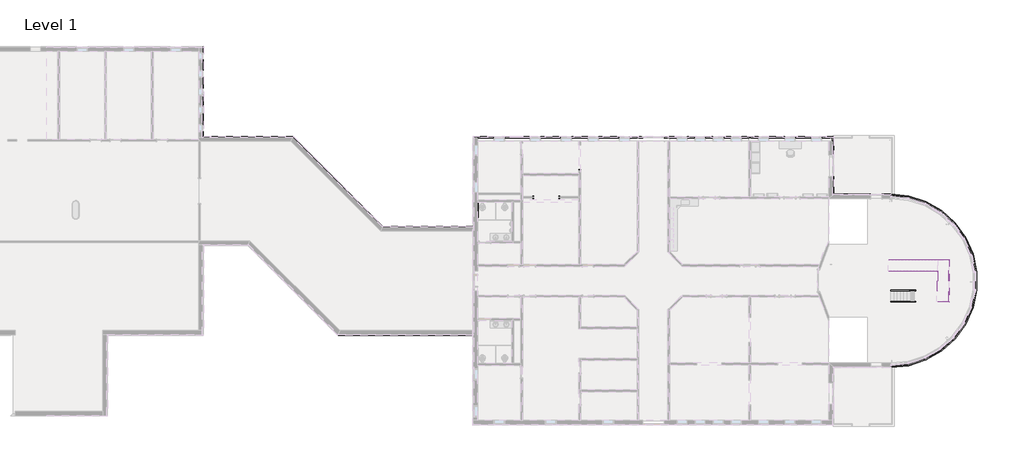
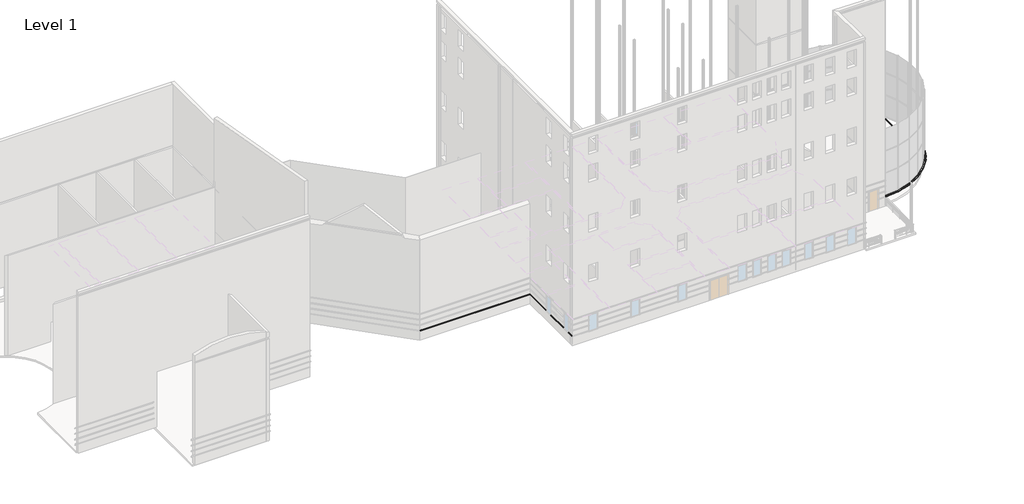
# One storey, part 16 of 16: 14 proxies, 8 members.
"""IFC4 building model written with IfcOpenShell, lengths in millimetres."""

from ifc_helpers import new_model, si_unit, frame, origin, place, context, project, spatial, polyline, circle_curve, outline, extrude, faceted_brep, transform, mapped, element, save
from ifc_brep_helpers import plane_surface, cylinder_surface, revolved_surface, advanced_brep
from components import proxy_cdde062f, proxy_226d7026

model = new_model("IFC4")

# Units and contexts
model_context = context("Model", 3, world=origin())
ifc_project = project(units=[si_unit("LENGTHUNIT", "METRE", prefix="MILLI")], contexts=[model_context])

# Site, building, storey
site = spatial("IfcSite", under=ifc_project)
building = spatial("IfcBuilding", under=site)
storey = spatial("IfcBuildingStorey", under=building, Name="Level 1", Elevation=0.0)

# Proxies
placement = place(None, origin())
element("IfcBuildingElementProxy", 1, Name="Wall Sweeps", at=placement, inside=storey, context=model_context, shape_type="Brep", body=[
    faceted_brep([(-20165.462755, 16963.8737109, 1085.85), (-20257.537755, 16963.8737109, 1085.85), (-20292.462755, 16963.8737109, 1041.4), (-20292.462755, 16963.8737109, 1016.0), (-20257.537755, 16963.8737109, 1016.0), (-20165.462755, 16963.8737109, 1016.0), (-20165.462755, 17529.0237109, 1085.85), (-20165.462755, 17529.0237109, 1016.0), (-20292.462755, 17656.0237109, 1016.0), (-20292.462755, 17656.0237109, 1041.4), (-20257.537755, 17621.0987109, 1085.85)], [[[0, 1, 2, 3, 4, 5]], [[6, 7, 8, 9, 10]], [[1, 0, 6, 10]], [[2, 1, 10, 9]], [[3, 2, 9, 8]], [[5, 4, 3, 8, 7]], [[0, 5, 7, 6]]]),
    faceted_brep([(-20165.462755, 13820.6237109, 1085.85), (-20257.537755, 13820.6237109, 1085.85), (-20292.462755, 13820.6237109, 1041.4), (-20292.462755, 13820.6237109, 1016.0), (-20257.537755, 13820.6237109, 1016.0), (-20165.462755, 13820.6237109, 1016.0), (-20165.462755, 16049.4737109, 1085.85), (-20165.462755, 16049.4737109, 1016.0), (-20257.537755, 16049.4737109, 1016.0), (-20292.462755, 16049.4737109, 1016.0), (-20292.462755, 16049.4737109, 1041.4), (-20257.537755, 16049.4737109, 1085.85)], [[[0, 1, 2, 3, 4, 5]], [[6, 7, 8, 9, 10, 11]], [[1, 0, 6, 11]], [[2, 1, 11, 10]], [[3, 2, 10, 9]], [[5, 4, 3, 9, 8, 7]], [[0, 5, 7, 6]]]),
    faceted_brep([(-20165.462755, 6267.2987109, 1085.85), (-20257.537755, 6267.2987109, 1085.85), (-20292.462755, 6267.2987109, 1041.4), (-20292.462755, 6267.2987109, 1016.0), (-20257.537755, 6267.2987109, 1016.0), (-20165.462755, 6267.2987109, 1016.0), (-20165.462755, 12906.2237109, 1085.85), (-20165.462755, 12906.2237109, 1016.0), (-20257.537755, 12906.2237109, 1016.0), (-20292.462755, 12906.2237109, 1016.0), (-20292.462755, 12906.2237109, 1041.4), (-20257.537755, 12906.2237109, 1085.85)], [[[0, 1, 2, 3, 4, 5]], [[6, 7, 8, 9, 10, 11]], [[1, 0, 6, 11]], [[2, 1, 11, 10]], [[3, 2, 10, 9]], [[5, 4, 3, 9, 8, 7]], [[0, 5, 7, 6]]]),
    faceted_brep([(-20165.462755, -2048.0262891, 1085.85), (-20257.537755, -2048.0262891, 1085.85), (-20292.462755, -2048.0262891, 1041.4), (-20292.462755, -2048.0262891, 1016.0), (-20257.537755, -2048.0262891, 1016.0), (-20165.462755, -2048.0262891, 1016.0), (-20165.462755, 4590.8987109, 1085.85), (-20165.462755, 4590.8987109, 1016.0), (-20257.537755, 4590.8987109, 1016.0), (-20292.462755, 4590.8987109, 1016.0), (-20292.462755, 4590.8987109, 1041.4), (-20257.537755, 4590.8987109, 1085.85)], [[[0, 1, 2, 3, 4, 5]], [[6, 7, 8, 9, 10, 11]], [[1, 0, 6, 11]], [[2, 1, 11, 10]], [[3, 2, 10, 9]], [[5, 4, 3, 9, 8, 7]], [[0, 5, 7, 6]]]),
    faceted_brep([(-20165.462755, -6670.8262891, 1085.85), (-20257.537755, -6762.9012891, 1085.85), (-20292.462755, -6797.8262891, 1041.4), (-20292.462755, -6797.8262891, 1016.0), (-20165.462755, -6670.8262891, 1016.0), (-20165.462755, -6105.6762891, 1085.85), (-20165.462755, -6105.6762891, 1016.0), (-20257.537755, -6105.6762891, 1016.0), (-20292.462755, -6105.6762891, 1016.0), (-20292.462755, -6105.6762891, 1041.4), (-20257.537755, -6105.6762891, 1085.85), (-20165.462755, -6410.4762891, 1085.85), (-20165.462755, -6410.4762891, 1016.0)], [[[0, 1, 2, 3, 4]], [[5, 6, 7, 8, 9, 10]], [[1, 0, 11, 5, 10]], [[2, 1, 10, 9]], [[3, 2, 9, 8]], [[4, 3, 8, 7, 6, 12]], [[0, 4, 12, 6, 5, 11]]]),
    faceted_brep([(-20165.462755, -5191.2762891, 1085.85), (-20257.537755, -5191.2762891, 1085.85), (-20292.462755, -5191.2762891, 1041.4), (-20292.462755, -5191.2762891, 1016.0), (-20257.537755, -5191.2762891, 1016.0), (-20165.462755, -5191.2762891, 1016.0), (-20165.462755, -2962.4262891, 1085.85), (-20165.462755, -2962.4262891, 1016.0), (-20257.537755, -2962.4262891, 1016.0), (-20292.462755, -2962.4262891, 1016.0), (-20292.462755, -2962.4262891, 1041.4), (-20257.537755, -2962.4262891, 1085.85)], [[[0, 1, 2, 3, 4, 5]], [[6, 7, 8, 9, 10, 11]], [[1, 0, 6, 11]], [[2, 1, 11, 10]], [[3, 2, 10, 9]], [[5, 4, 3, 9, 8, 7]], [[0, 5, 7, 6]]]),
])
element("IfcBuildingElementProxy", 2, Name="Wall Sweeps", at=placement, inside=storey, context=model_context, shape_type="Brep", body=[
    faceted_brep([(9260.437245, 17529.0237109, 1085.85), (9260.437245, 17621.0987109, 1085.85), (9260.437245, 17656.0237109, 1041.4), (9260.437245, 17656.0237109, 1016.0), (9260.437245, 17621.0987109, 1016.0), (9260.437245, 17529.0237109, 1016.0), (10130.387245, 17529.0237109, 1085.85), (10130.387245, 17529.0237109, 1016.0), (10257.387245, 17656.0237109, 1016.0), (10257.387245, 17656.0237109, 1041.4), (10222.462245, 17621.0987109, 1085.85)], [[[0, 1, 2, 3, 4, 5]], [[6, 7, 8, 9, 10]], [[1, 0, 6, 10]], [[2, 1, 10, 9]], [[3, 2, 9, 8]], [[5, 4, 3, 8, 7]], [[0, 5, 7, 6]]]),
    faceted_brep([(7019.680995, 17529.0237109, 1085.85), (7019.680995, 17621.0987109, 1085.85), (7019.680995, 17656.0237109, 1041.4), (7019.680995, 17656.0237109, 1016.0), (7019.680995, 17621.0987109, 1016.0), (7019.680995, 17529.0237109, 1016.0), (8346.037245, 17529.0237109, 1085.85), (8346.037245, 17529.0237109, 1016.0), (8346.037245, 17621.0987109, 1016.0), (8346.037245, 17656.0237109, 1016.0), (8346.037245, 17656.0237109, 1041.4), (8346.037245, 17621.0987109, 1085.85)], [[[0, 1, 2, 3, 4, 5]], [[6, 7, 8, 9, 10, 11]], [[1, 0, 6, 11]], [[2, 1, 11, 10]], [[3, 2, 10, 9]], [[5, 4, 3, 9, 8, 7]], [[0, 5, 7, 6]]]),
    faceted_brep([(4778.924745, 17529.0237109, 1085.85), (4778.924745, 17621.0987109, 1085.85), (4778.924745, 17656.0237109, 1041.4), (4778.924745, 17656.0237109, 1016.0), (4778.924745, 17621.0987109, 1016.0), (4778.924745, 17529.0237109, 1016.0), (6105.280995, 17529.0237109, 1085.85), (6105.280995, 17529.0237109, 1016.0), (6105.280995, 17621.0987109, 1016.0), (6105.280995, 17656.0237109, 1016.0), (6105.280995, 17656.0237109, 1041.4), (6105.280995, 17621.0987109, 1085.85)], [[[0, 1, 2, 3, 4, 5]], [[6, 7, 8, 9, 10, 11]], [[1, 0, 6, 11]], [[2, 1, 11, 10]], [[3, 2, 10, 9]], [[5, 4, 3, 9, 8, 7]], [[0, 5, 7, 6]]]),
    faceted_brep([(2462.762245, 17529.0237109, 1085.85), (2462.762245, 17621.0987109, 1085.85), (2462.762245, 17656.0237109, 1041.4), (2462.762245, 17656.0237109, 1016.0), (2462.762245, 17621.0987109, 1016.0), (2462.762245, 17529.0237109, 1016.0), (3864.524745, 17529.0237109, 1085.85), (3864.524745, 17529.0237109, 1016.0), (3864.524745, 17621.0987109, 1016.0), (3864.524745, 17656.0237109, 1016.0), (3864.524745, 17656.0237109, 1041.4), (3864.524745, 17621.0987109, 1085.85)], [[[0, 1, 2, 3, 4, 5]], [[6, 7, 8, 9, 10, 11]], [[1, 0, 6, 11]], [[2, 1, 11, 10]], [[3, 2, 10, 9]], [[5, 4, 3, 9, 8, 7]], [[0, 5, 7, 6]]]),
    faceted_brep([(933.999745, 17529.0237109, 1085.85), (933.999745, 17621.0987109, 1085.85), (933.999745, 17656.0237109, 1041.4), (933.999745, 17656.0237109, 1016.0), (933.999745, 17621.0987109, 1016.0), (933.999745, 17529.0237109, 1016.0), (1548.362245, 17529.0237109, 1085.85), (1548.362245, 17529.0237109, 1016.0), (1548.362245, 17621.0987109, 1016.0), (1548.362245, 17656.0237109, 1016.0), (1548.362245, 17656.0237109, 1041.4), (1548.362245, 17621.0987109, 1085.85)], [[[0, 1, 2, 3, 4, 5]], [[6, 7, 8, 9, 10, 11]], [[1, 0, 6, 11]], [[2, 1, 11, 10]], [[3, 2, 10, 9]], [[5, 4, 3, 9, 8, 7]], [[0, 5, 7, 6]]]),
    faceted_brep([(-2123.525255, 17529.0237109, 1085.85), (-2123.525255, 17621.0987109, 1085.85), (-2123.525255, 17656.0237109, 1041.4), (-2123.525255, 17656.0237109, 1016.0), (-2123.525255, 17621.0987109, 1016.0), (-2123.525255, 17529.0237109, 1016.0), (-1509.162755, 17529.0237109, 1085.85), (-1509.162755, 17529.0237109, 1016.0), (-1509.162755, 17621.0987109, 1016.0), (-1509.162755, 17656.0237109, 1016.0), (-1509.162755, 17656.0237109, 1041.4), (-1509.162755, 17621.0987109, 1085.85)], [[[0, 1, 2, 3, 4, 5]], [[6, 7, 8, 9, 10, 11]], [[1, 0, 6, 11]], [[2, 1, 11, 10]], [[3, 2, 10, 9]], [[5, 4, 3, 9, 8, 7]], [[0, 5, 7, 6]]]),
    faceted_brep([(-594.762755, 17529.0237109, 1085.85), (-594.762755, 17621.0987109, 1085.85), (-594.762755, 17656.0237109, 1041.4), (-594.762755, 17656.0237109, 1016.0), (-594.762755, 17621.0987109, 1016.0), (-594.762755, 17529.0237109, 1016.0), (19.599745, 17529.0237109, 1085.85), (19.599745, 17529.0237109, 1016.0), (19.599745, 17621.0987109, 1016.0), (19.599745, 17656.0237109, 1016.0), (19.599745, 17656.0237109, 1041.4), (19.599745, 17621.0987109, 1085.85)], [[[0, 1, 2, 3, 4, 5]], [[6, 7, 8, 9, 10, 11]], [[1, 0, 6, 11]], [[2, 1, 11, 10]], [[3, 2, 10, 9]], [[5, 4, 3, 9, 8, 7]], [[0, 5, 7, 6]]]),
    faceted_brep([(-20165.462755, 17529.0237109, 1085.85), (-20257.537755, 17621.0987109, 1085.85), (-20292.462755, 17656.0237109, 1041.4), (-20292.462755, 17656.0237109, 1016.0), (-20165.462755, 17529.0237109, 1016.0), (-18533.512755, 17529.0237109, 1085.85), (-18533.512755, 17529.0237109, 1016.0), (-18533.512755, 17621.0987109, 1016.0), (-18533.512755, 17656.0237109, 1016.0), (-18533.512755, 17656.0237109, 1041.4), (-18533.512755, 17621.0987109, 1085.85), (-19905.112755, 17529.0237109, 1085.85), (-19905.112755, 17529.0237109, 1016.0)], [[[0, 1, 2, 3, 4]], [[5, 6, 7, 8, 9, 10]], [[1, 0, 11, 5, 10]], [[2, 1, 10, 9]], [[3, 2, 9, 8]], [[4, 3, 8, 7, 6, 12]], [[0, 4, 12, 6, 5, 11]]]),
    faceted_brep([(-17619.112755, 17529.0237109, 1085.85), (-17619.112755, 17621.0987109, 1085.85), (-17619.112755, 17656.0237109, 1041.4), (-17619.112755, 17656.0237109, 1016.0), (-17619.112755, 17621.0987109, 1016.0), (-17619.112755, 17529.0237109, 1016.0), (-15482.337755, 17529.0237109, 1085.85), (-15482.337755, 17529.0237109, 1016.0), (-15482.337755, 17621.0987109, 1016.0), (-15482.337755, 17656.0237109, 1016.0), (-15482.337755, 17656.0237109, 1041.4), (-15482.337755, 17621.0987109, 1085.85)], [[[0, 1, 2, 3, 4, 5]], [[6, 7, 8, 9, 10, 11]], [[1, 0, 6, 11]], [[2, 1, 11, 10]], [[3, 2, 10, 9]], [[5, 4, 3, 9, 8, 7]], [[0, 5, 7, 6]]]),
    faceted_brep([(-14567.937755, 17529.0237109, 1085.85), (-14567.937755, 17621.0987109, 1085.85), (-14567.937755, 17656.0237109, 1041.4), (-14567.937755, 17656.0237109, 1016.0), (-14567.937755, 17621.0987109, 1016.0), (-14567.937755, 17529.0237109, 1016.0), (-12843.912755, 17529.0237109, 1085.85), (-12843.912755, 17529.0237109, 1016.0), (-12843.912755, 17621.0987109, 1016.0), (-12843.912755, 17656.0237109, 1016.0), (-12843.912755, 17656.0237109, 1041.4), (-12843.912755, 17621.0987109, 1085.85)], [[[0, 1, 2, 3, 4, 5]], [[6, 7, 8, 9, 10, 11]], [[1, 0, 6, 11]], [[2, 1, 11, 10]], [[3, 2, 10, 9]], [[5, 4, 3, 9, 8, 7]], [[0, 5, 7, 6]]]),
    faceted_brep([(-11929.512755, 17529.0237109, 1085.85), (-11929.512755, 17621.0987109, 1085.85), (-11929.512755, 17656.0237109, 1041.4), (-11929.512755, 17656.0237109, 1016.0), (-11929.512755, 17621.0987109, 1016.0), (-11929.512755, 17529.0237109, 1016.0), (-10554.737755, 17529.0237109, 1085.85), (-10554.737755, 17529.0237109, 1016.0), (-10554.737755, 17621.0987109, 1016.0), (-10554.737755, 17656.0237109, 1016.0), (-10554.737755, 17656.0237109, 1041.4), (-10554.737755, 17621.0987109, 1085.85)], [[[0, 1, 2, 3, 4, 5]], [[6, 7, 8, 9, 10, 11]], [[1, 0, 6, 11]], [[2, 1, 11, 10]], [[3, 2, 10, 9]], [[5, 4, 3, 9, 8, 7]], [[0, 5, 7, 6]]]),
    faceted_brep([(-9640.337755, 17529.0237109, 1085.85), (-9640.337755, 17621.0987109, 1085.85), (-9640.337755, 17656.0237109, 1041.4), (-9640.337755, 17656.0237109, 1016.0), (-9640.337755, 17621.0987109, 1016.0), (-9640.337755, 17529.0237109, 1016.0), (-7916.312755, 17529.0237109, 1085.85), (-7916.312755, 17529.0237109, 1016.0), (-7916.312755, 17621.0987109, 1016.0), (-7916.312755, 17656.0237109, 1016.0), (-7916.312755, 17656.0237109, 1041.4), (-7916.312755, 17621.0987109, 1085.85)], [[[0, 1, 2, 3, 4, 5]], [[6, 7, 8, 9, 10, 11]], [[1, 0, 6, 11]], [[2, 1, 11, 10]], [[3, 2, 10, 9]], [[5, 4, 3, 9, 8, 7]], [[0, 5, 7, 6]]]),
    faceted_brep([(-7001.912755, 17529.0237109, 1085.85), (-7001.912755, 17621.0987109, 1085.85), (-7001.912755, 17656.0237109, 1041.4), (-7001.912755, 17656.0237109, 1016.0), (-7001.912755, 17621.0987109, 1016.0), (-7001.912755, 17529.0237109, 1016.0), (-5931.937755, 17529.0237109, 1085.85), (-5931.937755, 17529.0237109, 1016.0), (-5931.937755, 17621.0987109, 1016.0), (-5931.937755, 17656.0237109, 1016.0), (-5931.937755, 17656.0237109, 1041.4), (-5931.937755, 17621.0987109, 1085.85)], [[[0, 1, 2, 3, 4, 5]], [[6, 7, 8, 9, 10, 11]], [[1, 0, 6, 11]], [[2, 1, 11, 10]], [[3, 2, 10, 9]], [[5, 4, 3, 9, 8, 7]], [[0, 5, 7, 6]]]),
    faceted_brep([(-4103.137755, 17529.0237109, 1085.85), (-4103.137755, 17621.0987109, 1085.85), (-4103.137755, 17656.0237109, 1041.4), (-4103.137755, 17656.0237109, 1016.0), (-4103.137755, 17621.0987109, 1016.0), (-4103.137755, 17529.0237109, 1016.0), (-3037.925255, 17529.0237109, 1085.85), (-3037.925255, 17529.0237109, 1016.0), (-3037.925255, 17621.0987109, 1016.0), (-3037.925255, 17656.0237109, 1016.0), (-3037.925255, 17656.0237109, 1041.4), (-3037.925255, 17621.0987109, 1085.85)], [[[0, 1, 2, 3, 4, 5]], [[6, 7, 8, 9, 10, 11]], [[1, 0, 6, 11]], [[2, 1, 11, 10]], [[3, 2, 10, 9]], [[5, 4, 3, 9, 8, 7]], [[0, 5, 7, 6]]]),
])
element("IfcBuildingElementProxy", 3, Name="Wall Sweeps", at=placement, inside=storey, context=model_context, shape_type="Brep", body=[
    faceted_brep([(10130.387245, 14268.2987109, 1085.85), (10222.462245, 14268.2987109, 1085.85), (10257.387245, 14268.2987109, 1041.4), (10257.387245, 14268.2987109, 1016.0), (10222.462245, 14268.2987109, 1016.0), (10130.387245, 14268.2987109, 1016.0), (10130.387245, 12652.2237109, 1085.85), (10130.387245, 12652.2237109, 1016.0), (10222.462245, 12744.2987109, 1016.0), (10257.387245, 12779.2237109, 1016.0), (10257.387245, 12779.2237109, 1041.4), (10222.462245, 12744.2987109, 1085.85)], [[[0, 1, 2, 3, 4, 5]], [[6, 7, 8, 9, 10, 11]], [[1, 0, 6, 11]], [[2, 1, 11, 10]], [[3, 2, 10, 9]], [[5, 4, 3, 9, 8, 7]], [[0, 5, 7, 6]]]),
    faceted_brep([(10130.387245, 17529.0237109, 1085.85), (10222.462245, 17621.0987109, 1085.85), (10257.387245, 17656.0237109, 1041.4), (10257.387245, 17656.0237109, 1016.0), (10130.387245, 17529.0237109, 1016.0), (10130.387245, 16097.0987109, 1085.85), (10130.387245, 16097.0987109, 1016.0), (10222.462245, 16097.0987109, 1016.0), (10257.387245, 16097.0987109, 1016.0), (10257.387245, 16097.0987109, 1041.4), (10222.462245, 16097.0987109, 1085.85), (10130.387245, 17268.6737109, 1085.85), (10130.387245, 17268.6737109, 1016.0)], [[[0, 1, 2, 3, 4]], [[5, 6, 7, 8, 9, 10]], [[1, 0, 11, 5, 10]], [[2, 1, 10, 9]], [[3, 2, 9, 8]], [[4, 3, 8, 7, 6, 12]], [[0, 4, 12, 6, 5, 11]]]),
])
element("IfcBuildingElementProxy", 4, Name="Wall Sweeps", at=placement, inside=storey, context=model_context, shape_type="Brep", body=[
    faceted_brep([(14330.912245, 12652.2237109, 1085.85), (14330.912245, 12744.2987109, 1085.85), (14330.912245, 12779.2237109, 1041.4), (14330.912245, 12779.2237109, 1016.0), (14330.912245, 12744.2987109, 1016.0), (14330.912245, 12652.2237109, 1016.0), (15099.262245, 12652.2237109, 1085.85), (15099.262245, 12652.2237109, 1016.0), (15099.262245, 12744.2987109, 1016.0), (15099.262245, 12779.2237109, 1016.0), (15099.262245, 12779.2237109, 1041.4), (15099.262245, 12744.2987109, 1085.85)], [[[0, 1, 2, 3, 4, 5]], [[6, 7, 8, 9, 10, 11]], [[1, 0, 6, 11]], [[2, 1, 11, 10]], [[3, 2, 10, 9]], [[5, 4, 3, 9, 8, 7]], [[0, 5, 7, 6]]]),
    faceted_brep([(10130.387245, 12652.2237109, 1085.85), (10222.462245, 12744.2987109, 1085.85), (10257.387245, 12779.2237109, 1041.4), (10257.387245, 12779.2237109, 1016.0), (10222.462245, 12744.2987109, 1016.0), (10130.387245, 12652.2237109, 1016.0), (13416.512245, 12652.2237109, 1085.85), (13416.512245, 12652.2237109, 1016.0), (13416.512245, 12744.2987109, 1016.0), (13416.512245, 12779.2237109, 1016.0), (13416.512245, 12779.2237109, 1041.4), (13416.512245, 12744.2987109, 1085.85)], [[[0, 1, 2, 3, 4, 5]], [[6, 7, 8, 9, 10, 11]], [[1, 0, 6, 11]], [[2, 1, 11, 10]], [[3, 2, 10, 9]], [[5, 4, 3, 9, 8, 7]], [[0, 5, 7, 6]]]),
])
element("IfcBuildingElementProxy", 5, Name="Wall Sweeps", at=placement, inside=storey, context=model_context, shape_type="AdvancedBrep", body=[
    advanced_brep(
    [(15099.262245, -1886.1012891, 1085.85), (15099.262245, 12744.2987109, 1085.85), (15099.262245, 12652.2237109, 1085.85), (15099.262245, -1794.0262891, 1085.85), (15099.262245, -1921.0262891, 1041.4), (15099.262245, 12779.2237109, 1041.4), (15099.262245, -1921.0262891, 1016.0), (15099.262245, 12779.2237109, 1016.0), (15099.262245, -1794.0262891, 1016.0), (15099.262245, 12652.2237109, 1016.0), (15099.262245, 12744.2987109, 1016.0), (15099.262245, -1886.1012891, 1016.0)],
    [
        (0, 1, circle_curve(frame((15099.262245, 5429.0987109, 1085.85), z_axis=(0.0, 0.0, 1.0), x_axis=(0.0, 1.0, 0.0)), 7315.2)),
        (1, 2),
        (2, 3, circle_curve(frame((15099.262245, 5429.0987109, 1085.85), z_axis=(0.0, 0.0, -1.0), x_axis=(0.0, 1.0, 0.0)), 7223.125)),
        (3, 0),
        (4, 5, circle_curve(frame((15099.262245, 5429.0987109, 1041.4), z_axis=(0.0, 0.0, 1.0), x_axis=(0.0, 1.0, 0.0)), 7350.125)),
        (5, 1),
        (0, 4),
        (6, 7, circle_curve(frame((15099.262245, 5429.0987109, 1016.0), z_axis=(0.0, 0.0, 1.0), x_axis=(0.0, 1.0, 0.0)), 7350.125)),
        (7, 5),
        (4, 6),
        (8, 9, circle_curve(frame((15099.262245, 5429.0987109, 1016.0), z_axis=(0.0, 0.0, 1.0), x_axis=(0.0, 1.0, 0.0)), 7223.125)),
        (9, 10),
        (10, 7),
        (6, 11),
        (11, 8),
        (2, 9),
        (8, 3),
    ],
    [
        plane_surface(frame((15099.262245, 5429.0987109, 1085.85), z_axis=(0.0, 0.0, 1.0), x_axis=(0.0, 1.0, 0.0))),
        revolved_surface(polyline([(15099.262245, 12744.2987109, 1085.85), (15099.262245, 12779.2237109, 1041.4)]), (15099.262245, 5429.0987109, 1016.0), (0.0, 0.0, -1.0)),
        cylinder_surface(frame((15099.262245, 5429.0987109, 1016.0), z_axis=(0.0, 0.0, -1.0), x_axis=(0.0, 1.0, 0.0)), 7350.125),
        plane_surface(frame((15099.262245, 5429.0987109, 1016.0), z_axis=(0.0, 0.0, -1.0), x_axis=(0.0, 1.0, 0.0))),
        revolved_surface(polyline([(15099.262245, 12652.2237109, 1016.0), (15099.262245, 12652.2237109, 1085.85)]), (15099.262245, 5429.0987109, 1016.0), (0.0, 0.0, -1.0)),
        plane_surface(frame((15099.262245, 13049.0987109, 1016.0), z_axis=(-1.0, 0.0, 0.0), x_axis=(0.0, 0.0, 1.0))),
        plane_surface(frame((15099.262245, -2190.9012891, 1016.0), z_axis=(-1.0, 0.0, 0.0), x_axis=(0.0, 0.0, 1.0))),
    ],
    [
        (0, [[1, 2, 3, 4]]),
        (1, [[5, 6, -1, 7]]),
        (2, [[8, 9, -5, 10]]),
        (3, [[11, 12, 13, -8, 14, 15]]),
        (4, [[-3, 16, -11, 17]]),
        (5, [[-2, -6, -9, -13, -12, -16]]),
        (6, [[-17, -15, -14, -10, -7, -4]]),
    ],
),
])
element("IfcBuildingElementProxy", 6, Name="Wall Sweeps", at=placement, inside=storey, context=model_context, shape_type="Brep", body=[
    faceted_brep([(-20257.537755, 9909.0237109, 1085.85), (-20257.537755, 9909.0237109, 1016.0), (-20257.537755, 10001.0987109, 1016.0), (-20257.537755, 10036.0237109, 1016.0), (-20257.537755, 10036.0237109, 1041.4), (-20257.537755, 10001.0987109, 1085.85), (-27988.6660761, 9909.0237109, 1085.85), (-27950.5273623, 10001.0987109, 1085.85), (-27936.0609537, 10036.0237109, 1041.4), (-27936.0609537, 10036.0237109, 1016.0), (-27950.5273623, 10001.0987109, 1016.0), (-27988.6660761, 9909.0237109, 1016.0)], [[[0, 1, 2, 3, 4, 5]], [[6, 7, 8, 9, 10, 11]], [[1, 0, 6, 11]], [[3, 2, 1, 11, 10, 9]], [[4, 3, 9, 8]], [[5, 4, 8, 7]], [[0, 5, 7, 6]]]),
])
element("IfcBuildingElementProxy", 7, Name="Wall Sweeps", at=placement, inside=storey, context=model_context, shape_type="Brep", body=[
    faceted_brep([(-20292.462755, 949.1737109, 1085.85), (-20292.462755, 857.0987109, 1085.85), (-20292.462755, 822.1737109, 1041.4), (-20292.462755, 822.1737109, 1016.0), (-20292.462755, 857.0987109, 1016.0), (-20292.462755, 949.1737109, 1016.0), (-31699.9574629, 949.1737109, 1085.85), (-31699.9574629, 949.1737109, 1016.0), (-31738.0961767, 857.0987109, 1016.0), (-31752.5625853, 822.1737109, 1016.0), (-31752.5625853, 822.1737109, 1041.4), (-31738.0961767, 857.0987109, 1085.85)], [[[0, 1, 2, 3, 4, 5]], [[6, 7, 8, 9, 10, 11]], [[1, 0, 6, 11]], [[2, 1, 11, 10]], [[3, 2, 10, 9]], [[5, 4, 3, 9, 8, 7]], [[0, 5, 7, 6]]]),
])
element("IfcBuildingElementProxy", 8, Name="Wall Sweeps", at=placement, inside=storey, context=model_context, shape_type="Brep", body=[
    faceted_brep([(-27988.6660761, 9909.0237109, 1085.85), (-27988.6660761, 9909.0237109, 1016.0), (-27950.5273623, 10001.0987109, 1016.0), (-27936.0609537, 10036.0237109, 1016.0), (-27936.0609537, 10036.0237109, 1041.4), (-27950.5273623, 10001.0987109, 1085.85), (-35608.6660761, 17529.0237109, 1085.85), (-35570.5273623, 17621.0987109, 1085.85), (-35556.0609537, 17656.0237109, 1041.4), (-35556.0609537, 17656.0237109, 1016.0), (-35570.5273623, 17621.0987109, 1016.0), (-35608.6660761, 17529.0237109, 1016.0)], [[[0, 1, 2, 3, 4, 5]], [[6, 7, 8, 9, 10, 11]], [[1, 0, 6, 11]], [[3, 2, 1, 11, 10, 9]], [[4, 3, 9, 8]], [[5, 4, 8, 7]], [[0, 5, 7, 6]]]),
])
element("IfcBuildingElementProxy", 9, Name="Wall Sweeps", at=placement, inside=storey, context=model_context, shape_type="Brep", body=[
    faceted_brep([(-35608.6660761, 17529.0237109, 1085.85), (-35608.6660761, 17529.0237109, 1016.0), (-35570.5273623, 17621.0987109, 1016.0), (-35556.0609537, 17656.0237109, 1016.0), (-35556.0609537, 17656.0237109, 1041.4), (-35570.5273623, 17621.0987109, 1085.85), (-43282.6023623, 17529.0237109, 1085.85), (-43190.5273623, 17621.0987109, 1085.85), (-43155.6023623, 17656.0237109, 1041.4), (-43155.6023623, 17656.0237109, 1016.0), (-43282.6023623, 17529.0237109, 1016.0)], [[[0, 1, 2, 3, 4, 5]], [[6, 7, 8, 9, 10]], [[1, 0, 6, 10]], [[3, 2, 1, 10, 9]], [[4, 3, 9, 8]], [[5, 4, 8, 7]], [[0, 5, 7, 6]]]),
])
element("IfcBuildingElementProxy", 10, Name="Wall Sweeps", at=placement, inside=storey, context=model_context, shape_type="Brep", body=[
    faceted_brep([(-43282.6023623, 17529.0237109, 1085.85), (-43282.6023623, 17529.0237109, 1016.0), (-43155.6023623, 17656.0237109, 1016.0), (-43155.6023623, 17656.0237109, 1041.4), (-43190.5273623, 17621.0987109, 1085.85), (-43282.6023623, 18090.9987109, 1085.85), (-43190.5273623, 18090.9987109, 1085.85), (-43155.6023623, 18090.9987109, 1041.4), (-43155.6023623, 18090.9987109, 1016.0), (-43190.5273623, 18090.9987109, 1016.0), (-43282.6023623, 18090.9987109, 1016.0), (-43282.6023623, 17621.0987109, 1085.85), (-43282.6023623, 17621.0987109, 1016.0)], [[[0, 1, 2, 3, 4]], [[5, 6, 7, 8, 9, 10]], [[1, 0, 11, 5, 10, 12]], [[2, 1, 12, 10, 9, 8]], [[3, 2, 8, 7]], [[4, 3, 7, 6]], [[0, 4, 6, 5, 11]]]),
    faceted_brep([(-43282.6023623, 24815.6487109, 1085.85), (-43282.6023623, 24815.6487109, 1016.0), (-43190.5273623, 24815.6487109, 1016.0), (-43155.6023623, 24815.6487109, 1016.0), (-43155.6023623, 24815.6487109, 1041.4), (-43190.5273623, 24815.6487109, 1085.85), (-43282.6023623, 25149.0237109, 1085.85), (-43190.5273623, 25241.0987109, 1085.85), (-43155.6023623, 25276.0237109, 1041.4), (-43155.6023623, 25276.0237109, 1016.0), (-43282.6023623, 25149.0237109, 1016.0)], [[[0, 1, 2, 3, 4, 5]], [[6, 7, 8, 9, 10]], [[1, 0, 6, 10]], [[3, 2, 1, 10, 9]], [[4, 3, 9, 8]], [[5, 4, 8, 7]], [[0, 5, 7, 6]]]),
    faceted_brep([(-43282.6023623, 23286.8862109, 1085.85), (-43282.6023623, 23286.8862109, 1016.0), (-43190.5273623, 23286.8862109, 1016.0), (-43155.6023623, 23286.8862109, 1016.0), (-43155.6023623, 23286.8862109, 1041.4), (-43190.5273623, 23286.8862109, 1085.85), (-43282.6023623, 24206.0487109, 1085.85), (-43190.5273623, 24206.0487109, 1085.85), (-43155.6023623, 24206.0487109, 1041.4), (-43155.6023623, 24206.0487109, 1016.0), (-43190.5273623, 24206.0487109, 1016.0), (-43282.6023623, 24206.0487109, 1016.0)], [[[0, 1, 2, 3, 4, 5]], [[6, 7, 8, 9, 10, 11]], [[1, 0, 6, 11]], [[3, 2, 1, 11, 10, 9]], [[4, 3, 9, 8]], [[5, 4, 8, 7]], [[0, 5, 7, 6]]]),
    faceted_brep([(-43282.6023623, 21758.1237109, 1085.85), (-43282.6023623, 21758.1237109, 1016.0), (-43190.5273623, 21758.1237109, 1016.0), (-43155.6023623, 21758.1237109, 1016.0), (-43155.6023623, 21758.1237109, 1041.4), (-43190.5273623, 21758.1237109, 1085.85), (-43282.6023623, 22677.2862109, 1085.85), (-43190.5273623, 22677.2862109, 1085.85), (-43155.6023623, 22677.2862109, 1041.4), (-43155.6023623, 22677.2862109, 1016.0), (-43190.5273623, 22677.2862109, 1016.0), (-43282.6023623, 22677.2862109, 1016.0)], [[[0, 1, 2, 3, 4, 5]], [[6, 7, 8, 9, 10, 11]], [[1, 0, 6, 11]], [[3, 2, 1, 11, 10, 9]], [[4, 3, 9, 8]], [[5, 4, 8, 7]], [[0, 5, 7, 6]]]),
    faceted_brep([(-43282.6023623, 20229.3612109, 1085.85), (-43282.6023623, 20229.3612109, 1016.0), (-43190.5273623, 20229.3612109, 1016.0), (-43155.6023623, 20229.3612109, 1016.0), (-43155.6023623, 20229.3612109, 1041.4), (-43190.5273623, 20229.3612109, 1085.85), (-43282.6023623, 21148.5237109, 1085.85), (-43190.5273623, 21148.5237109, 1085.85), (-43155.6023623, 21148.5237109, 1041.4), (-43155.6023623, 21148.5237109, 1016.0), (-43190.5273623, 21148.5237109, 1016.0), (-43282.6023623, 21148.5237109, 1016.0)], [[[0, 1, 2, 3, 4, 5]], [[6, 7, 8, 9, 10, 11]], [[1, 0, 6, 11]], [[3, 2, 1, 11, 10, 9]], [[4, 3, 9, 8]], [[5, 4, 8, 7]], [[0, 5, 7, 6]]]),
    faceted_brep([(-43282.6023623, 18700.5987109, 1085.85), (-43282.6023623, 18700.5987109, 1016.0), (-43190.5273623, 18700.5987109, 1016.0), (-43155.6023623, 18700.5987109, 1016.0), (-43155.6023623, 18700.5987109, 1041.4), (-43190.5273623, 18700.5987109, 1085.85), (-43282.6023623, 19619.7612109, 1085.85), (-43190.5273623, 19619.7612109, 1085.85), (-43155.6023623, 19619.7612109, 1041.4), (-43155.6023623, 19619.7612109, 1016.0), (-43190.5273623, 19619.7612109, 1016.0), (-43282.6023623, 19619.7612109, 1016.0)], [[[0, 1, 2, 3, 4, 5]], [[6, 7, 8, 9, 10, 11]], [[1, 0, 6, 11]], [[3, 2, 1, 11, 10, 9]], [[4, 3, 9, 8]], [[5, 4, 8, 7]], [[0, 5, 7, 6]]]),
])
proxy_shape = proxy_cdde062f(model_context)
element("IfcBuildingElementProxy", 11, Name="Grab Bar : 4'-0\" Length", ObjectType="Grab Bar : 4'-0\" Length", at=placement, inside=storey, context=model_context, shape_type="MappedRepresentation", body=[
    mapped(proxy_shape, transform((-20081.325255, 11417.1487109, 0.0), x_axis=(0.0, -1.0, 0.0), y_axis=(1.0, 0.0, 0.0), z_axis=(0.0, 0.0, 1.0))),
])
proxy_2_shape = proxy_226d7026(model_context)
element("IfcBuildingElementProxy", 12, Name="Opening-Cased : 84\" x 84\"", ObjectType="Opening-Cased : 84\" x 84\"", at=placement, inside=storey, context=model_context, shape_type="MappedRepresentation", body=[
    mapped(proxy_2_shape, transform((-11242.125255, 15905.2623676, 0.0), x_axis=(0.0, 1.0, 0.0), y_axis=(-1.0, 0.0, 0.0), z_axis=(0.0, 0.0, 1.0))),
])
element("IfcBuildingElementProxy", 13, Name="Opening-Cased : 84\" x 84\"", ObjectType="Opening-Cased : 84\" x 84\"", at=placement, inside=storey, context=model_context, shape_type="MappedRepresentation", body=[
    mapped(proxy_2_shape, transform((-14080.3240983, 12523.6362109, 0.0), x_axis=(1.0, 0.0, 0.0), y_axis=(0.0, 1.0, 0.0), z_axis=(0.0, 0.0, 1.0))),
])
element("IfcBuildingElementProxy", 14, Name="Opening-Cased : 84\" x 84\"", ObjectType="Opening-Cased : 84\" x 84\"", at=placement, inside=storey, context=model_context, shape_type="MappedRepresentation", body=[
    mapped(proxy_2_shape, transform((3162.849745, 1252.1350542, 0.0), x_axis=(0.0, -1.0, 0.0), y_axis=(1.0, 0.0, 0.0), z_axis=(0.0, 0.0, 1.0))),
])

# Members
element("IfcMember", 15, ObjectType="Stringer - 2\" Width", at=placement, inside=storey, context=model_context, shape_type="SweptSolid", body=[
    extrude(outline(polyline([(214.7244698, 15099.262245), (0.0, 15099.262245), (0.0, 15329.8773573), (2359.8062632, 19055.312245), (2720.6095138, 19055.312245), (214.7244698, 15099.262245)])), frame((0.0, 4589.3112109, 0.0), z_axis=(0.0, 1.0, 0.0), x_axis=(0.0, 0.0, 1.0)), (0.0, 0.0, 1.0), 50.8),
])
element("IfcMember", 16, ObjectType="Stringer - 2\" Width", at=placement, inside=storey, context=model_context, shape_type="SweptSolid", body=[
    extrude(outline(polyline([(214.7244698, 15099.262245), (0.0, 15099.262245), (0.0, 15329.8773573), (2426.1096774, 19159.9856907), (2730.9096774, 19071.5731516), (214.7244698, 15099.262245)])), frame((0.0, 3624.1112109, 0.0), z_axis=(0.0, 1.0, 0.0), x_axis=(0.0, 0.0, 1.0)), (0.0, 0.0, 1.0), 50.8),
])
element("IfcMember", 17, ObjectType="Stringer - 2\" Width", at=placement, inside=storey, context=model_context, shape_type="SweptSolid", body=[
    extrude(outline(polyline([(2508.6308966, 19106.112245), (2869.4341472, 19106.112245), (5524.1438246, 14915.112245), (5163.340574, 14915.112245), (2508.6308966, 19106.112245)])), frame((0.0, 6218.0862109, 0.0), z_axis=(0.0, 1.0, 0.0), x_axis=(0.0, 0.0, 1.0)), (0.0, 0.0, 1.0), 50.8),
])
element("IfcMember", 18, ObjectType="Stringer - 2\" Width", at=placement, inside=storey, context=model_context, shape_type="SweptSolid", body=[
    extrude(outline(polyline([(2426.1096774, 19236.3887994), (2730.9096774, 19324.8013385), (5524.1438246, 14915.112245), (5163.340574, 14915.112245), (2426.1096774, 19236.3887994)])), frame((0.0, 7183.2862109, 0.0), z_axis=(0.0, 1.0, 0.0), x_axis=(0.0, 0.0, 1.0)), (0.0, 0.0, 1.0), 50.8),
])
element("IfcMember", 19, ObjectType="Stringer - 2\" Width", at=placement, inside=storey, context=model_context, shape_type="SweptSolid", body=[
    extrude(outline(polyline([(19055.312245, 6218.0862109), (19106.112245, 6218.0862109), (19106.112245, 4589.3112109), (19055.312245, 4589.3112109), (19055.312245, 6218.0862109)])), frame((0.0, 0.0, 2426.1096774), z_axis=(0.0, 0.0, 1.0), x_axis=(1.0, 0.0, 0.0)), (0.0, 0.0, 1.0), 304.8),
])
element("IfcMember", 20, ObjectType="Stringer - 2\" Width", at=placement, inside=storey, context=model_context, shape_type="Brep", body=[
    faceted_brep([(19071.5731516, 3674.9112109, 2730.9096774), (19071.5731516, 3624.1112109, 2730.9096774), (20071.312245, 3624.1112109, 2730.9096774), (20020.512245, 3674.9112109, 2730.9096774), (19159.9856907, 3674.9112109, 2426.1096774), (20020.512245, 3674.9112109, 2426.1096774), (19159.9856907, 3624.1112109, 2426.1096774), (20071.312245, 3624.1112109, 2426.1096774)], [[[0, 1, 2, 3]], [[4, 0, 3, 5]], [[6, 4, 5, 7]], [[1, 6, 7, 2]], [[1, 0, 4, 6]], [[2, 7, 5, 3]]]),
])
element("IfcMember", 21, ObjectType="Stringer - 2\" Width", at=placement, inside=storey, context=model_context, shape_type="SweptSolid", body=[
    extrude(outline(polyline([(20071.312245, 3624.1112109), (20020.512245, 3674.9112109), (20020.512245, 7183.2862109), (20071.312245, 7234.0862109), (20071.312245, 3624.1112109)])), frame((0.0, 0.0, 2426.1096774), z_axis=(0.0, 0.0, 1.0), x_axis=(1.0, 0.0, 0.0)), (0.0, 0.0, 1.0), 304.8),
])
element("IfcMember", 22, ObjectType="Stringer - 2\" Width", at=placement, inside=storey, context=model_context, shape_type="Brep", body=[
    faceted_brep([(20020.512245, 7183.2862109, 2730.9096774), (20071.312245, 7234.0862109, 2730.9096774), (19324.8013385, 7234.0862109, 2730.9096774), (19324.8013385, 7183.2862109, 2730.9096774), (20020.512245, 7183.2862109, 2426.1096774), (19236.3887994, 7183.2862109, 2426.1096774), (20071.312245, 7234.0862109, 2426.1096774), (19236.3887994, 7234.0862109, 2426.1096774)], [[[0, 1, 2, 3]], [[4, 0, 3, 5]], [[6, 4, 5, 7]], [[1, 6, 7, 2]], [[1, 0, 4, 6]], [[2, 7, 5, 3]]]),
])

save(model, "model.ifc")
